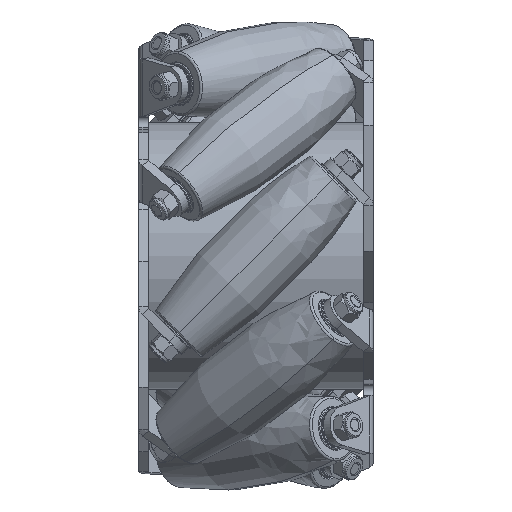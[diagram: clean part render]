
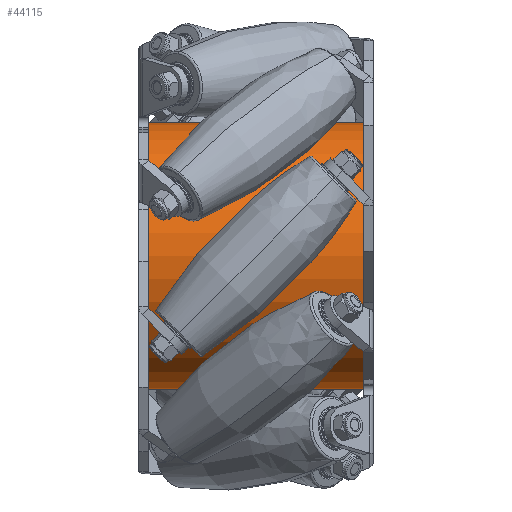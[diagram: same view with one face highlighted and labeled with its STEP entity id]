
A CAD part, left-side view. The second image highlights one B-rep face of the part: STEP entity #44115.
In plain terms, the highlighted cylindrical face has radius 28.5 mm (diameter 57 mm), a partial arc.
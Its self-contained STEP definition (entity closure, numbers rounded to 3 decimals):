
#43625 = EDGE_CURVE('',#43626,#43628,#43630,.T.);
#43626 = VERTEX_POINT('',#43627);
#43627 = CARTESIAN_POINT('',(-0.207,-0.071,28.5));
#43628 = VERTEX_POINT('',#43629);
#43629 = CARTESIAN_POINT('',(-0.207,-0.071,-28.5));
#43630 = SURFACE_CURVE('',#43631,(#43636,#43652),.PCURVE_S1.);
#43631 = CIRCLE('',#43632,28.5);
#43632 = AXIS2_PLACEMENT_3D('',#43633,#43634,#43635);
#43633 = CARTESIAN_POINT('',(-0.207,-0.071,0.));
#43634 = DIRECTION('',(0.,-1.,0.));
#43635 = DIRECTION('',(0.,0.,1.));
#43636 = PCURVE('',#43637,#43642);
#43637 = PLANE('',#43638);
#43638 = AXIS2_PLACEMENT_3D('',#43639,#43640,#43641);
#43639 = CARTESIAN_POINT('',(-0.207,-0.071,
    0.004));
#43640 = DIRECTION('',(0.,1.,0.));
#43641 = DIRECTION('',(0.,0.,-1.));
#43642 = DEFINITIONAL_REPRESENTATION('',(#43643),#43651);
#43643 = ( BOUNDED_CURVE() B_SPLINE_CURVE(2,(#43644,#43645,#43646,#43647
    ,#43648,#43649,#43650),.UNSPECIFIED.,.T.,.F.) 
B_SPLINE_CURVE_WITH_KNOTS((1,2,2,2,2,1),(-2.094,0.,
    2.094,4.189,6.283,8.378),
.UNSPECIFIED.) CURVE() GEOMETRIC_REPRESENTATION_ITEM() 
RATIONAL_B_SPLINE_CURVE((1.,0.5,1.,0.5,1.,0.5,1.)) REPRESENTATION_ITEM(
  '') );
#43644 = CARTESIAN_POINT('',(-28.496,0.));
#43645 = CARTESIAN_POINT('',(-28.496,49.363));
#43646 = CARTESIAN_POINT('',(14.254,24.682));
#43647 = CARTESIAN_POINT('',(57.004,0.));
#43648 = CARTESIAN_POINT('',(14.254,-24.682));
#43649 = CARTESIAN_POINT('',(-28.496,-49.363));
#43650 = CARTESIAN_POINT('',(-28.496,0.));
#43651 = ( GEOMETRIC_REPRESENTATION_CONTEXT(2) 
PARAMETRIC_REPRESENTATION_CONTEXT() REPRESENTATION_CONTEXT('2D SPACE',''
  ) );
#43652 = PCURVE('',#43653,#43658);
#43653 = CYLINDRICAL_SURFACE('',#43654,28.5);
#43654 = AXIS2_PLACEMENT_3D('',#43655,#43656,#43657);
#43655 = CARTESIAN_POINT('',(-0.207,-0.071,0.));
#43656 = DIRECTION('',(0.,1.,0.));
#43657 = DIRECTION('',(0.,-0.,1.));
#43658 = DEFINITIONAL_REPRESENTATION('',(#43659),#43663);
#43659 = LINE('',#43660,#43661);
#43660 = CARTESIAN_POINT('',(6.283,0.));
#43661 = VECTOR('',#43662,1.);
#43662 = DIRECTION('',(-1.,-0.));
#43663 = ( GEOMETRIC_REPRESENTATION_CONTEXT(2) 
PARAMETRIC_REPRESENTATION_CONTEXT() REPRESENTATION_CONTEXT('2D SPACE',''
  ) );
#43684 = CYLINDRICAL_SURFACE('',#43685,28.5);
#43685 = AXIS2_PLACEMENT_3D('',#43686,#43687,#43688);
#43686 = CARTESIAN_POINT('',(-0.207,-0.071,0.));
#43687 = DIRECTION('',(0.,1.,0.));
#43688 = DIRECTION('',(0.,-0.,1.));
#44115 = ADVANCED_FACE('',(#44116),#43653,.T.);
#44116 = FACE_BOUND('',#44117,.T.);
#44117 = EDGE_LOOP('',(#44118,#44141,#44142,#44165));
#44118 = ORIENTED_EDGE('',*,*,#44119,.F.);
#44119 = EDGE_CURVE('',#43628,#44120,#44122,.T.);
#44120 = VERTEX_POINT('',#44121);
#44121 = CARTESIAN_POINT('',(-0.207,45.929,-28.5));
#44122 = SURFACE_CURVE('',#44123,(#44127,#44134),.PCURVE_S1.);
#44123 = LINE('',#44124,#44125);
#44124 = CARTESIAN_POINT('',(-0.207,-0.071,-28.5));
#44125 = VECTOR('',#44126,1.);
#44126 = DIRECTION('',(0.,1.,0.));
#44127 = PCURVE('',#43653,#44128);
#44128 = DEFINITIONAL_REPRESENTATION('',(#44129),#44133);
#44129 = LINE('',#44130,#44131);
#44130 = CARTESIAN_POINT('',(3.142,0.));
#44131 = VECTOR('',#44132,1.);
#44132 = DIRECTION('',(-0.,1.));
#44133 = ( GEOMETRIC_REPRESENTATION_CONTEXT(2) 
PARAMETRIC_REPRESENTATION_CONTEXT() REPRESENTATION_CONTEXT('2D SPACE',''
  ) );
#44134 = PCURVE('',#43684,#44135);
#44135 = DEFINITIONAL_REPRESENTATION('',(#44136),#44140);
#44136 = LINE('',#44137,#44138);
#44137 = CARTESIAN_POINT('',(3.142,0.));
#44138 = VECTOR('',#44139,1.);
#44139 = DIRECTION('',(0.,1.));
#44140 = ( GEOMETRIC_REPRESENTATION_CONTEXT(2) 
PARAMETRIC_REPRESENTATION_CONTEXT() REPRESENTATION_CONTEXT('2D SPACE',''
  ) );
#44141 = ORIENTED_EDGE('',*,*,#43625,.F.);
#44142 = ORIENTED_EDGE('',*,*,#44143,.T.);
#44143 = EDGE_CURVE('',#43626,#44144,#44146,.T.);
#44144 = VERTEX_POINT('',#44145);
#44145 = CARTESIAN_POINT('',(-0.207,45.929,28.5));
#44146 = SURFACE_CURVE('',#44147,(#44151,#44158),.PCURVE_S1.);
#44147 = LINE('',#44148,#44149);
#44148 = CARTESIAN_POINT('',(-0.207,-0.071,28.5));
#44149 = VECTOR('',#44150,1.);
#44150 = DIRECTION('',(0.,1.,0.));
#44151 = PCURVE('',#43653,#44152);
#44152 = DEFINITIONAL_REPRESENTATION('',(#44153),#44157);
#44153 = LINE('',#44154,#44155);
#44154 = CARTESIAN_POINT('',(6.283,0.));
#44155 = VECTOR('',#44156,1.);
#44156 = DIRECTION('',(0.,1.));
#44157 = ( GEOMETRIC_REPRESENTATION_CONTEXT(2) 
PARAMETRIC_REPRESENTATION_CONTEXT() REPRESENTATION_CONTEXT('2D SPACE',''
  ) );
#44158 = PCURVE('',#43684,#44159);
#44159 = DEFINITIONAL_REPRESENTATION('',(#44160),#44164);
#44160 = LINE('',#44161,#44162);
#44161 = CARTESIAN_POINT('',(0.,0.));
#44162 = VECTOR('',#44163,1.);
#44163 = DIRECTION('',(-0.,1.));
#44164 = ( GEOMETRIC_REPRESENTATION_CONTEXT(2) 
PARAMETRIC_REPRESENTATION_CONTEXT() REPRESENTATION_CONTEXT('2D SPACE',''
  ) );
#44165 = ORIENTED_EDGE('',*,*,#44166,.T.);
#44166 = EDGE_CURVE('',#44144,#44120,#44167,.T.);
#44167 = SURFACE_CURVE('',#44168,(#44173,#44180),.PCURVE_S1.);
#44168 = CIRCLE('',#44169,28.5);
#44169 = AXIS2_PLACEMENT_3D('',#44170,#44171,#44172);
#44170 = CARTESIAN_POINT('',(-0.207,45.929,0.));
#44171 = DIRECTION('',(0.,-1.,0.));
#44172 = DIRECTION('',(0.,0.,1.));
#44173 = PCURVE('',#43653,#44174);
#44174 = DEFINITIONAL_REPRESENTATION('',(#44175),#44179);
#44175 = LINE('',#44176,#44177);
#44176 = CARTESIAN_POINT('',(6.283,46.));
#44177 = VECTOR('',#44178,1.);
#44178 = DIRECTION('',(-1.,0.));
#44179 = ( GEOMETRIC_REPRESENTATION_CONTEXT(2) 
PARAMETRIC_REPRESENTATION_CONTEXT() REPRESENTATION_CONTEXT('2D SPACE',''
  ) );
#44180 = PCURVE('',#44181,#44186);
#44181 = PLANE('',#44182);
#44182 = AXIS2_PLACEMENT_3D('',#44183,#44184,#44185);
#44183 = CARTESIAN_POINT('',(-0.207,45.929,0.004));
#44184 = DIRECTION('',(0.,1.,0.));
#44185 = DIRECTION('',(0.,0.,-1.));
#44186 = DEFINITIONAL_REPRESENTATION('',(#44187),#44195);
#44187 = ( BOUNDED_CURVE() B_SPLINE_CURVE(2,(#44188,#44189,#44190,#44191
    ,#44192,#44193,#44194),.UNSPECIFIED.,.T.,.F.) 
B_SPLINE_CURVE_WITH_KNOTS((1,2,2,2,2,1),(-2.094,0.,
    2.094,4.189,6.283,8.378),
.UNSPECIFIED.) CURVE() GEOMETRIC_REPRESENTATION_ITEM() 
RATIONAL_B_SPLINE_CURVE((1.,0.5,1.,0.5,1.,0.5,1.)) REPRESENTATION_ITEM(
  '') );
#44188 = CARTESIAN_POINT('',(-28.496,0.));
#44189 = CARTESIAN_POINT('',(-28.496,49.363));
#44190 = CARTESIAN_POINT('',(14.254,24.682));
#44191 = CARTESIAN_POINT('',(57.004,0.));
#44192 = CARTESIAN_POINT('',(14.254,-24.682));
#44193 = CARTESIAN_POINT('',(-28.496,-49.363));
#44194 = CARTESIAN_POINT('',(-28.496,0.));
#44195 = ( GEOMETRIC_REPRESENTATION_CONTEXT(2) 
PARAMETRIC_REPRESENTATION_CONTEXT() REPRESENTATION_CONTEXT('2D SPACE',''
  ) );
